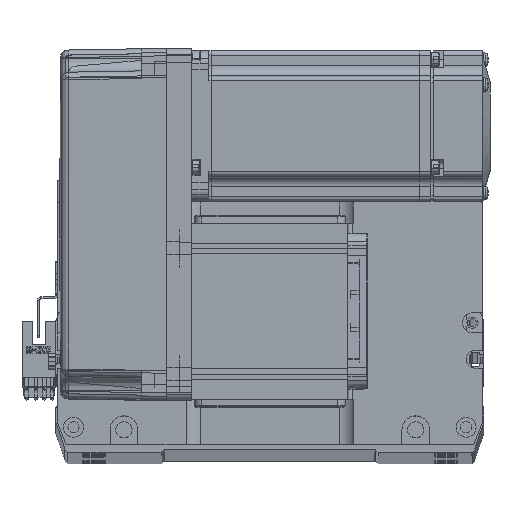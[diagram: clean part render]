
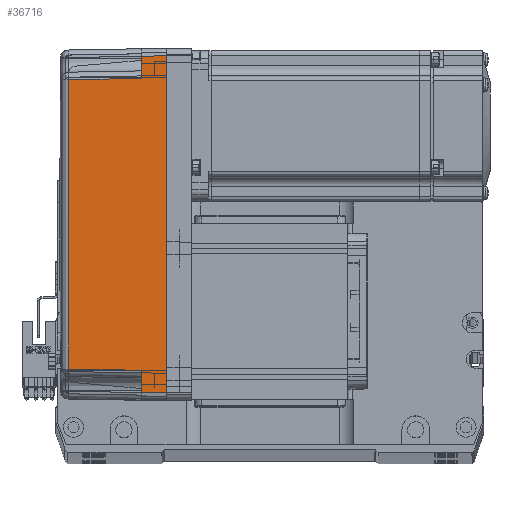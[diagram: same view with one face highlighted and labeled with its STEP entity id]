
A CAD part, top view. The second image highlights one B-rep face of the part: STEP entity #36716.
In plain terms, the highlighted planar face has unit normal (-0.018, 0, 1) as drawn and (0, 1, 0.017) by its records, which use the part's own axes.
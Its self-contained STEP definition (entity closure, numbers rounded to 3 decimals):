
#580 = ORIENTED_EDGE ( 'NONE', *, *, #4217, .T. ) ;
#823 = VERTEX_POINT ( 'NONE', #21406 ) ;
#1600 = EDGE_CURVE ( 'NONE', #45204, #43133, #1665, .T. ) ;
#1614 = LINE ( 'NONE', #17723, #68587 ) ;
#1665 = LINE ( 'NONE', #44855, #3388 ) ;
#1799 = PLANE ( 'NONE',  #17502 ) ;
#2292 = CARTESIAN_POINT ( 'NONE',  ( -58., 35.825, 10. ) ) ;
#2679 = CARTESIAN_POINT ( 'NONE',  ( 57.495, 35.32, 38.985 ) ) ;
#2928 = CARTESIAN_POINT ( 'NONE',  ( 19.165, 35.316, 39.181 ) ) ;
#3388 = VECTOR ( 'NONE', #50615, 1000. ) ;
#4217 = EDGE_CURVE ( 'NONE', #42404, #45817, #48967, .T. ) ;
#4636 = DIRECTION ( 'NONE',  ( 1., 0., 0. ) ) ;
#9680 = CARTESIAN_POINT ( 'NONE',  ( 57.495, 35.32, 38.985 ) ) ;
#10804 = CARTESIAN_POINT ( 'NONE',  ( 70., 35.825, 10. ) ) ;
#11308 = ORIENTED_EDGE ( 'NONE', *, *, #22609, .T. ) ;
#11670 = EDGE_CURVE ( 'NONE', #37993, #54607, #1614, .T. ) ;
#12821 = LINE ( 'NONE', #20946, #63971 ) ;
#12910 = CARTESIAN_POINT ( 'NONE',  ( 0., 36., 0. ) ) ;
#14800 = ORIENTED_EDGE ( 'NONE', *, *, #1600, .F. ) ;
#16282 = VECTOR ( 'NONE', #63520, 1000. ) ;
#17502 = AXIS2_PLACEMENT_3D ( 'NONE', #61451, #39113, #50490 ) ;
#17723 = CARTESIAN_POINT ( 'NONE',  ( -58., 35.825, 10. ) ) ;
#17741 = ORIENTED_EDGE ( 'NONE', *, *, #50340, .T. ) ;
#20408 = VECTOR ( 'NONE', #51087, 1000. ) ;
#20946 = CARTESIAN_POINT ( 'NONE',  ( 70., 35.825, 10. ) ) ;
#21406 = CARTESIAN_POINT ( 'NONE',  ( -67., 36., 0. ) ) ;
#21659 = DIRECTION ( 'NONE',  ( 0.017, -0.017, 1. ) ) ;
#22609 = EDGE_CURVE ( 'NONE', #823, #50622, #36933, .T. ) ;
#34393 = CARTESIAN_POINT ( 'NONE',  ( 66.826, 35.825, 10. ) ) ;
#35518 = CARTESIAN_POINT ( 'NONE',  ( -57.495, 35.32, 38.985 ) ) ;
#36427 = LINE ( 'NONE', #12910, #20408 ) ;
#36454 = CARTESIAN_POINT ( 'NONE',  ( 57.495, 35.32, 38.985 ) ) ;
#36698 = CARTESIAN_POINT ( 'NONE',  ( 58., 35.825, 10. ) ) ;
#36716 = ADVANCED_FACE ( 'NONE', ( #41488 ), #1799, .T. ) ;
#36908 = EDGE_CURVE ( 'NONE', #45817, #43133, #12821, .T. ) ;
#36933 = LINE ( 'NONE', #42846, #49415 ) ;
#37993 = VERTEX_POINT ( 'NONE', #2292 ) ;
#38224 = DIRECTION ( 'NONE',  ( 1., 0., 0. ) ) ;
#38870 = ORIENTED_EDGE ( 'NONE', *, *, #46507, .F. ) ;
#38947 = CARTESIAN_POINT ( 'NONE',  ( -66.826, 35.825, 10. ) ) ;
#39113 = DIRECTION ( 'NONE',  ( 0., 1., 0.017 ) ) ;
#39322 = B_SPLINE_CURVE_WITH_KNOTS ( 'NONE', 3,
 ( #35518, #56905, #2928, #2679 ),
 .UNSPECIFIED., .F., .F.,
 ( 4, 4 ),
 ( 0., 1. ),
 .UNSPECIFIED. ) ;
#41488 = FACE_OUTER_BOUND ( 'NONE', #63306, .T. ) ;
#42404 = VERTEX_POINT ( 'NONE', #9680 ) ;
#42846 = CARTESIAN_POINT ( 'NONE',  ( -67., 36., 0. ) ) ;
#43133 = VERTEX_POINT ( 'NONE', #34393 ) ;
#43757 = ORIENTED_EDGE ( 'NONE', *, *, #11670, .T. ) ;
#44297 = CARTESIAN_POINT ( 'NONE',  ( -57.495, 35.32, 38.985 ) ) ;
#44855 = CARTESIAN_POINT ( 'NONE',  ( 67.001, 36.001, -0.052 ) ) ;
#44878 = EDGE_CURVE ( 'NONE', #50622, #37993, #61716, .T. ) ;
#45178 = ORIENTED_EDGE ( 'NONE', *, *, #36908, .T. ) ;
#45204 = VERTEX_POINT ( 'NONE', #45711 ) ;
#45711 = CARTESIAN_POINT ( 'NONE',  ( 67., 36., 0. ) ) ;
#45817 = VERTEX_POINT ( 'NONE', #36698 ) ;
#46507 = EDGE_CURVE ( 'NONE', #823, #45204, #36427, .T. ) ;
#48967 = LINE ( 'NONE', #36454, #16282 ) ;
#49415 = VECTOR ( 'NONE', #21659, 1000. ) ;
#50340 = EDGE_CURVE ( 'NONE', #54607, #42404, #39322, .T. ) ;
#50490 = DIRECTION ( 'NONE',  ( 0., -0.017, 1. ) ) ;
#50615 = DIRECTION ( 'NONE',  ( -0.017, -0.017, 1. ) ) ;
#50622 = VERTEX_POINT ( 'NONE', #38947 ) ;
#51087 = DIRECTION ( 'NONE',  ( 1., 0., 0. ) ) ;
#54607 = VERTEX_POINT ( 'NONE', #44297 ) ;
#56905 = CARTESIAN_POINT ( 'NONE',  ( -19.165, 35.316, 39.181 ) ) ;
#61451 = CARTESIAN_POINT ( 'NONE',  ( 70., 36., 0. ) ) ;
#61716 = LINE ( 'NONE', #10804, #68445 ) ;
#61880 = ORIENTED_EDGE ( 'NONE', *, *, #44878, .T. ) ;
#63306 = EDGE_LOOP ( 'NONE', ( #11308, #61880, #43757, #17741, #580, #45178, #14800, #38870 ) ) ;
#63520 = DIRECTION ( 'NONE',  ( 0.017, 0.017, -1. ) ) ;
#63971 = VECTOR ( 'NONE', #4636, 1000. ) ;
#66205 = DIRECTION ( 'NONE',  ( 0.017, -0.017, 1. ) ) ;
#68445 = VECTOR ( 'NONE', #38224, 1000. ) ;
#68587 = VECTOR ( 'NONE', #66205, 1000. ) ;
